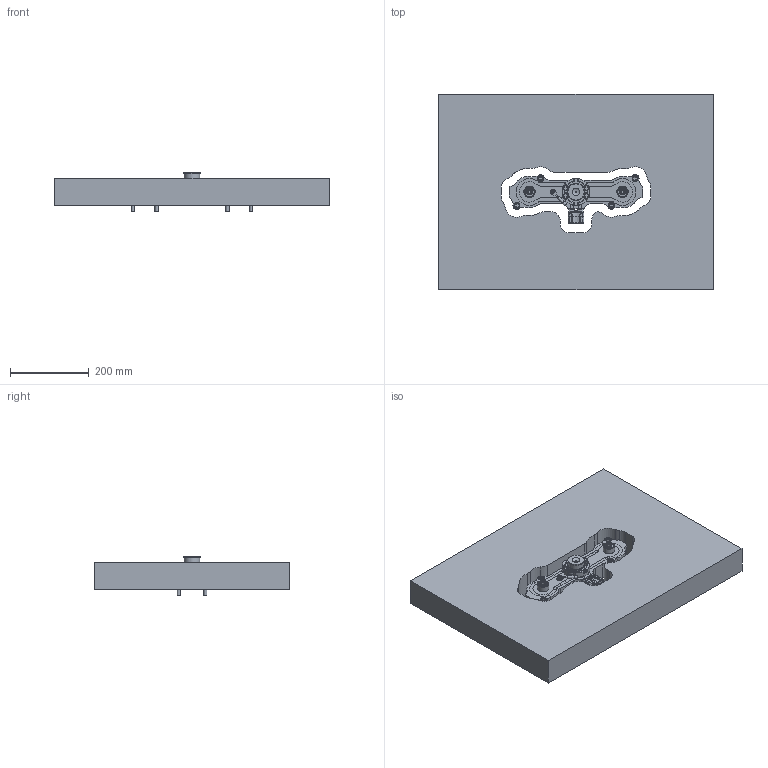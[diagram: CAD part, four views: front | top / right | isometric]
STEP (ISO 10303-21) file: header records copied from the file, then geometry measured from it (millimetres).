
FILE_DESCRIPTION( ( 'STEP AP214' ), '1' );
FILE_NAME( 'D:/Trabalho/Standa_library/MF_120X120_BIM18.step', ' ', ( ' ' ), ( ' ' ), 'PSStep 10.0', ' ', ' ' );
FILE_SCHEMA( ( 'automotive_design' ) );
Length unit declared in the file: millimetre
Products named in the file (33): @41; Bolt1; Bolt2; ManifoldEnd1; Upper_Heater; Lower_Heater; Lower_Copper; Upper_Copper; NL30; CHCM8x016; ACSEME319020; Ring; Box; Cover; Bolt_M5; Nut_M5; Insulation Pad; CHCM06x010; End_Plug; Bolt; MFTSIC140151; M4_Bolt
Bounding box: 696 x 496 x 99 mm (x, y, z)
Volume: 22222561 mm3; surface area: 1094025 mm2
Topology: 33 solids, 33 shells, 1539 faces, 3772 edges, 2361 vertices
Faces by surface type: plane 623, cylinder 342, cone 254, torus 166, bspline 119, extrusion 25, sphere 8, revolution 2
Full cylindrical faces by diameter (mm): 3.3 x2, 4 x3, 4.2 x1, 4.5 x1, 5 x5, 6 x10, 6.5 x4, 6.7 x10, 6.8 x1, 7 x1, 7.3 x1, 7.5 x1, 8 x17, 9 x4, 9.5 x2, 10 x11, 11 x3, 12 x2, 13 x8, 14 x2, 15 x4, 22.5 x1, 26 x2, 29.2 x3, 40 x1, 41 x1, 42.5 x1, 70 x1
Entity records: 63565 total; most frequent: CARTESIAN_POINT 15822, DIRECTION 7349, ORIENTED_EDGE 7040, EDGE_CURVE 3520, AXIS2_PLACEMENT_3D 2871, VERTEX_POINT 2318, EDGE_LOOP 1862, FACE_OUTER_BOUND 1676
